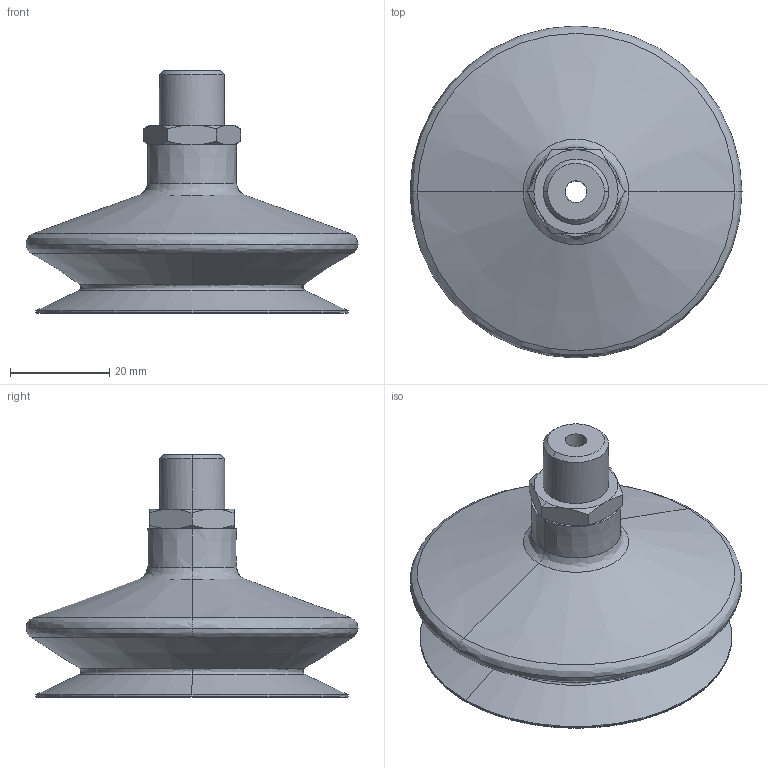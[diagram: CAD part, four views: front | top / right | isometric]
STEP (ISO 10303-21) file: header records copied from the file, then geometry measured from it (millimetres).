
FILE_DESCRIPTION (( 'STEP AP203' ), '1' );
FILE_NAME ('FSGA-63-HT1-60.STEP', '2024-03-04T03:18:55', ( '微软用户' ), ( '微软中国' ), 'SwSTEP 2.0', 'SolidWorks 2018', '' );
FILE_SCHEMA (( 'CONFIG_CONTROL_DESIGN' ));
Length unit declared in the file: millimetre
Products named in the file (1): FSGA-63-HT1-60
Bounding box: 67 x 67 x 49 mm (x, y, z)
Volume: 22964.2 mm3; surface area: 18611.6 mm2
Topology: 1 solids, 1 shells, 76 faces, 166 edges, 98 vertices
Faces by surface type: cone 32, bspline 18, plane 14, cylinder 12
Entity records: 4059 total; most frequent: CARTESIAN_POINT 2471, ORIENTED_EDGE 332, DIRECTION 284, EDGE_CURVE 166, AXIS2_PLACEMENT_3D 123, VERTEX_POINT 98, EDGE_LOOP 84, FACE_OUTER_BOUND 76
